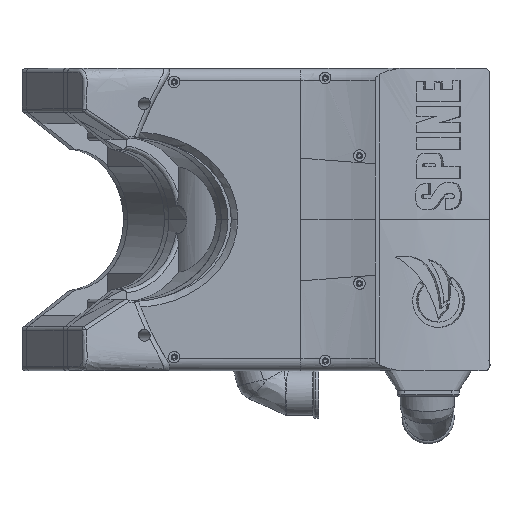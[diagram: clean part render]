
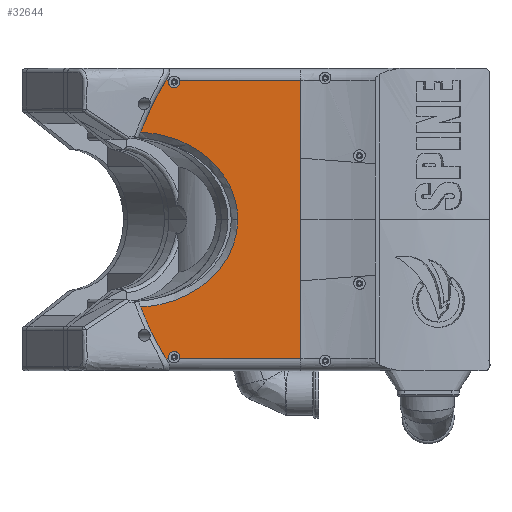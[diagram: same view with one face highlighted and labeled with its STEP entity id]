
A CAD part, top view. The second image highlights one B-rep face of the part: STEP entity #32644.
In plain terms, the highlighted planar face has unit normal (0, 0, 1).
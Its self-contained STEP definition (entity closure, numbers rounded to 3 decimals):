
#748=B_SPLINE_CURVE_WITH_KNOTS($,3,(#79257,#79258,#79259,#79260),
 .UNSPECIFIED.,.F.,.F.,(4,4),(-3.274,-0.281),
 .UNSPECIFIED.);
#749=B_SPLINE_CURVE_WITH_KNOTS($,3,(#79262,#79263,#79264,#79265,#79266,
#79267,#79268,#79269,#79270,#79271,#79272,#79273,#79274),.UNSPECIFIED.,
 .F.,.F.,(4,3,3,3,4),(0.102,2.167,4.34,
5.427,7.6),.UNSPECIFIED.);
#750=B_SPLINE_CURVE_WITH_KNOTS($,3,(#79276,#79277,#79278,#79279,#79280,
#79281,#79282,#79283,#79284,#79285,#79286,#79287,#79288),.UNSPECIFIED.,
 .F.,.F.,(4,3,3,3,4),(0.,1.086,3.259,
5.432,7.452),.UNSPECIFIED.);
#751=B_SPLINE_CURVE_WITH_KNOTS($,3,(#79290,#79291,#79292,#79293),
 .UNSPECIFIED.,.F.,.F.,(4,4),(-3.274,-0.281),
 .UNSPECIFIED.);
#3380=CIRCLE($,#35349,0.3);
#3383=CIRCLE($,#35355,0.3);
#4868=FACE_OUTER_BOUND($,#7127,.T.);
#7127=EDGE_LOOP($,(#26125,#26126,#26127,#26128,#26129,#26130,#26131,#26132,
#26133,#26134,#26135,#26136,#26137,#26138));
#9345=LINE($,#79237,#11937);
#9347=LINE($,#79254,#11939);
#9348=LINE($,#79295,#11940);
#9349=LINE($,#79299,#11941);
#9350=LINE($,#79301,#11942);
#9351=LINE($,#79303,#11943);
#9352=LINE($,#79305,#11944);
#9353=LINE($,#79306,#11945);
#11937=VECTOR($,#41561,6.261);
#11939=VECTOR($,#41565,0.137);
#11940=VECTOR($,#41568,0.137);
#11941=VECTOR($,#41571,6.261);
#11942=VECTOR($,#41572,4.031);
#11943=VECTOR($,#41573,3.169);
#11944=VECTOR($,#41574,3.169);
#11945=VECTOR($,#41575,4.031);
#14947=VERTEX_POINT($,#79210);
#14948=VERTEX_POINT($,#79211);
#14950=VERTEX_POINT($,#79236);
#14952=VERTEX_POINT($,#79241);
#14953=VERTEX_POINT($,#79256);
#14954=VERTEX_POINT($,#79261);
#14955=VERTEX_POINT($,#79275);
#14956=VERTEX_POINT($,#79289);
#14957=VERTEX_POINT($,#79294);
#14958=VERTEX_POINT($,#79296);
#14959=VERTEX_POINT($,#79298);
#14960=VERTEX_POINT($,#79300);
#14961=VERTEX_POINT($,#79302);
#14962=VERTEX_POINT($,#79304);
#18947=EDGE_CURVE($,#14947,#14948,#3380,.T.);
#18950=EDGE_CURVE($,#14950,#14947,#9345,.T.);
#18954=EDGE_CURVE($,#14948,#14952,#9347,.T.);
#18955=EDGE_CURVE($,#14953,#14952,#748,.T.);
#18956=EDGE_CURVE($,#14953,#14954,#749,.T.);
#18957=EDGE_CURVE($,#14954,#14955,#750,.T.);
#18958=EDGE_CURVE($,#14955,#14956,#751,.T.);
#18959=EDGE_CURVE($,#14957,#14956,#9348,.T.);
#18960=EDGE_CURVE($,#14957,#14958,#3383,.T.);
#18961=EDGE_CURVE($,#14959,#14958,#9349,.T.);
#18962=EDGE_CURVE($,#14959,#14960,#9350,.T.);
#18963=EDGE_CURVE($,#14960,#14961,#9351,.T.);
#18964=EDGE_CURVE($,#14962,#14961,#9352,.T.);
#18965=EDGE_CURVE($,#14950,#14962,#9353,.T.);
#26125=ORIENTED_EDGE($,*,*,#18947,.T.);
#26126=ORIENTED_EDGE($,*,*,#18954,.T.);
#26127=ORIENTED_EDGE($,*,*,#18955,.F.);
#26128=ORIENTED_EDGE($,*,*,#18956,.T.);
#26129=ORIENTED_EDGE($,*,*,#18957,.T.);
#26130=ORIENTED_EDGE($,*,*,#18958,.T.);
#26131=ORIENTED_EDGE($,*,*,#18959,.F.);
#26132=ORIENTED_EDGE($,*,*,#18960,.T.);
#26133=ORIENTED_EDGE($,*,*,#18961,.F.);
#26134=ORIENTED_EDGE($,*,*,#18962,.T.);
#26135=ORIENTED_EDGE($,*,*,#18963,.T.);
#26136=ORIENTED_EDGE($,*,*,#18964,.F.);
#26137=ORIENTED_EDGE($,*,*,#18965,.F.);
#26138=ORIENTED_EDGE($,*,*,#18950,.T.);
#31194=PLANE($,#35354);
#32644=ADVANCED_FACE($,(#4868),#31194,.T.);
#35349=AXIS2_PLACEMENT_3D($,#79212,#41553,#41554);
#35354=AXIS2_PLACEMENT_3D($,#79255,#41566,#41567);
#35355=AXIS2_PLACEMENT_3D($,#79297,#41569,#41570);
#41553=DIRECTION('center_axis',(0.,0.,
-1.));
#41554=DIRECTION('ref_axis',(-1.,0.,0.));
#41561=DIRECTION($,(-1.,0.,0.));
#41565=DIRECTION($,(-1.,0.,0.));
#41566=DIRECTION('center_axis',(0.,0.,
1.));
#41567=DIRECTION('ref_axis',(1.,0.,0.));
#41568=DIRECTION($,(-1.,0.,0.));
#41569=DIRECTION('center_axis',(0.,0.,
-1.));
#41570=DIRECTION('ref_axis',(1.,0.,0.));
#41571=DIRECTION($,(-1.,0.,0.));
#41572=DIRECTION($,(0.,1.,0.));
#41573=DIRECTION($,(0.,1.,0.));
#41574=DIRECTION($,(0.,-1.,0.));
#41575=DIRECTION($,(0.,-1.,0.));
#79210=CARTESIAN_POINT('',(-4.036,12.7,12.6));
#79211=CARTESIAN_POINT('',(-4.602,12.7,12.6));
#79212=CARTESIAN_POINT('Origin',(-4.319,12.6,12.6));
#79236=CARTESIAN_POINT('',(2.225,12.7,12.6));
#79237=CARTESIAN_POINT($,(-0.68,12.7,12.6));
#79241=CARTESIAN_POINT('',(-4.739,12.7,12.6));
#79254=CARTESIAN_POINT($,(-0.68,12.7,12.6));
#79255=CARTESIAN_POINT('Origin',(-6.628,13.3,12.6));
#79256=CARTESIAN_POINT('',(-6.062,10.017,12.6));
#79257=CARTESIAN_POINT('Ctrl Pts',(-6.062,10.017,12.6));
#79258=CARTESIAN_POINT('Ctrl Pts',(-5.696,10.975,12.6));
#79259=CARTESIAN_POINT('Ctrl Pts',(-5.25,11.881,12.6));
#79260=CARTESIAN_POINT('Ctrl Pts',(-4.739,12.7,12.6));
#79261=CARTESIAN_POINT('',(-1.028,5.5,12.6));
#79262=CARTESIAN_POINT('Ctrl Pts',(-6.062,10.017,12.6));
#79263=CARTESIAN_POINT('Ctrl Pts',(-5.331,9.984,12.6));
#79264=CARTESIAN_POINT('Ctrl Pts',(-4.609,9.822,12.6));
#79265=CARTESIAN_POINT('Ctrl Pts',(-3.954,9.541,12.6));
#79266=CARTESIAN_POINT('Ctrl Pts',(-3.264,9.244,12.6));
#79267=CARTESIAN_POINT('Ctrl Pts',(-2.65,8.816,12.6));
#79268=CARTESIAN_POINT('Ctrl Pts',(-2.168,8.294,12.6));
#79269=CARTESIAN_POINT('Ctrl Pts',(-1.927,8.033,12.6));
#79270=CARTESIAN_POINT('Ctrl Pts',(-1.719,7.748,12.6));
#79271=CARTESIAN_POINT('Ctrl Pts',(-1.551,7.446,12.6));
#79272=CARTESIAN_POINT('Ctrl Pts',(-1.213,6.843,12.6));
#79273=CARTESIAN_POINT('Ctrl Pts',(-1.032,6.173,12.6));
#79274=CARTESIAN_POINT('Ctrl Pts',(-1.028,5.5,12.6));
#79275=CARTESIAN_POINT('',(-6.062,0.983,12.6));
#79276=CARTESIAN_POINT('Ctrl Pts',(-1.028,5.5,12.6));
#79277=CARTESIAN_POINT('Ctrl Pts',(-1.03,5.162,12.6));
#79278=CARTESIAN_POINT('Ctrl Pts',(-1.076,4.823,12.6));
#79279=CARTESIAN_POINT('Ctrl Pts',(-1.165,4.495,12.6));
#79280=CARTESIAN_POINT('Ctrl Pts',(-1.343,3.837,12.6));
#79281=CARTESIAN_POINT('Ctrl Pts',(-1.694,3.216,12.6));
#79282=CARTESIAN_POINT('Ctrl Pts',(-2.18,2.692,12.6));
#79283=CARTESIAN_POINT('Ctrl Pts',(-2.666,2.168,12.6));
#79284=CARTESIAN_POINT('Ctrl Pts',(-3.288,1.741,12.6));
#79285=CARTESIAN_POINT('Ctrl Pts',(-3.984,1.447,12.6));
#79286=CARTESIAN_POINT('Ctrl Pts',(-4.631,1.173,12.6));
#79287=CARTESIAN_POINT('Ctrl Pts',(-5.343,1.015,12.6));
#79288=CARTESIAN_POINT('Ctrl Pts',(-6.062,0.983,
12.6));
#79289=CARTESIAN_POINT('',(-4.739,-1.7,12.6));
#79290=CARTESIAN_POINT('Ctrl Pts',(-6.062,0.983,
12.6));
#79291=CARTESIAN_POINT('Ctrl Pts',(-5.696,0.025,
12.6));
#79292=CARTESIAN_POINT('Ctrl Pts',(-5.25,-0.881,
12.6));
#79293=CARTESIAN_POINT('Ctrl Pts',(-4.739,-1.7,12.6));
#79294=CARTESIAN_POINT('',(-4.602,-1.7,12.6));
#79295=CARTESIAN_POINT($,(-0.68,-1.7,12.6));
#79296=CARTESIAN_POINT('',(-4.036,-1.7,12.6));
#79297=CARTESIAN_POINT('Origin',(-4.319,-1.6,12.6));
#79298=CARTESIAN_POINT('',(2.225,-1.7,12.6));
#79299=CARTESIAN_POINT($,(-0.68,-1.7,12.6));
#79300=CARTESIAN_POINT('',(2.225,2.331,12.6));
#79301=CARTESIAN_POINT($,(2.225,-2.3,12.6));
#79302=CARTESIAN_POINT('',(2.225,5.5,12.6));
#79303=CARTESIAN_POINT($,(2.225,2.331,12.6));
#79304=CARTESIAN_POINT('',(2.225,8.669,12.6));
#79305=CARTESIAN_POINT($,(2.225,8.669,12.6));
#79306=CARTESIAN_POINT($,(2.225,13.3,12.6));
